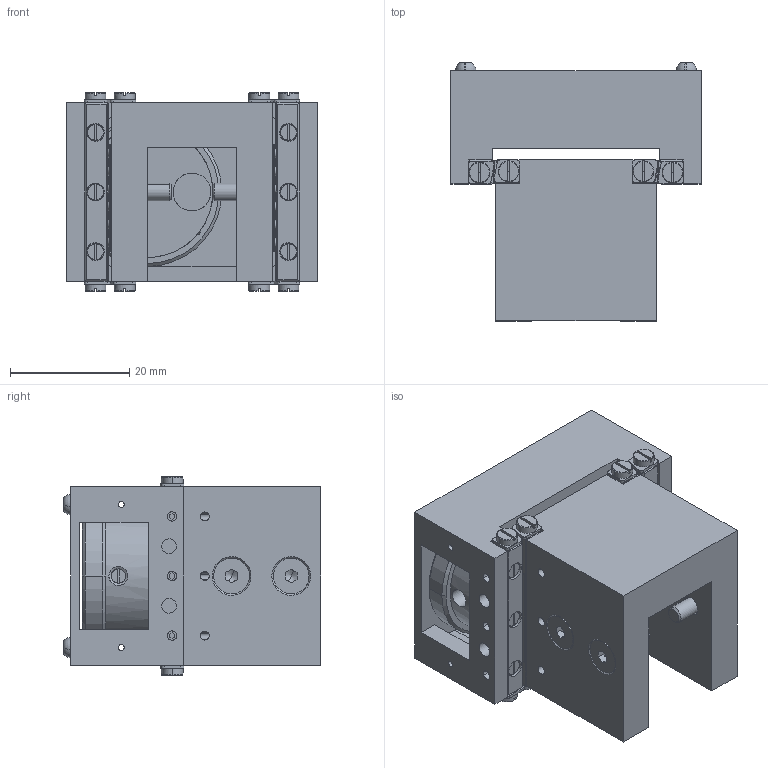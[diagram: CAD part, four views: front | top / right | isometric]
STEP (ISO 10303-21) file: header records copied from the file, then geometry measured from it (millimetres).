
FILE_DESCRIPTION(('Confidential','CAx-IF Rec.Pracs.--- Model Styling and Organization---1.2---2011-12-15'),'2;1');
FILE_NAME('W:\KONSTRUKTION\PRODUCTS\FRK\FRKLIFT\FRKLIFT_Rev_D.stp','2023-05-05T13:25:57+00:00',('none'),('Ferrovac AG'),'CATIA Version 5 Release 21 SP 6 (IN-10)','CATIA V5 STEP AP214','PROPERTY OF FERROVAC AG');
FILE_SCHEMA(('AUTOMOTIVE_DESIGN { 1 0 10303 214 1 1 1 1 }'));
Length unit declared in the file: millimetre
Products named in the file (1): FRKLIFT_Rev_D
Bounding box: 42 x 43.3 x 33.4 mm (x, y, z)
Volume: 24338.4 mm3; surface area: 16747 mm2
Topology: 9 solids, 44 shells, 1497 faces, 3932 edges, 2508 vertices
Faces by surface type: plane 554, cylinder 455, cone 368, torus 96, sphere 24
Entity records: 47537 total; most frequent: CARTESIAN_POINT 12878, ORIENTED_EDGE 7744, DIRECTION 5814, EDGE_CURVE 3872, AXIS2_PLACEMENT_3D 2697, VERTEX_POINT 2508, VECTOR 1818, LINE 1818
